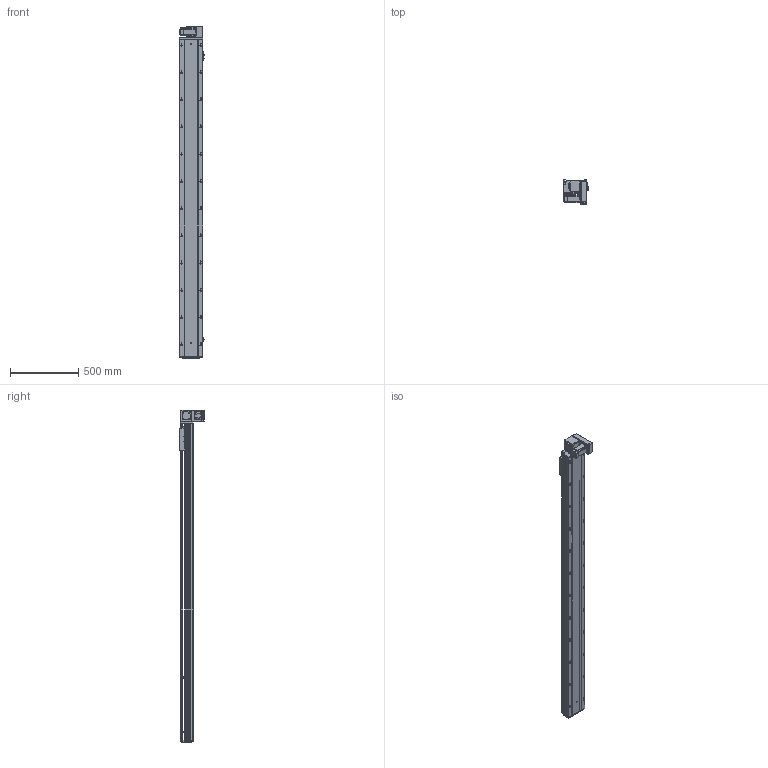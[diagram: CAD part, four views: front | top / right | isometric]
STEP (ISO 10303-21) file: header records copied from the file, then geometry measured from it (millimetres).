
FILE_DESCRIPTION (( 'STEP AP203' ), '1' );
FILE_NAME ('RY170-T-300-DR-P400W.SLDASM_2050.step', '2021-03-01T08:24:59', ( '盈信电脑' ), ( '东莞市道滘镇水果街19号' ), 'SwSTEP 2.0', 'SolidWorks 2012', '' );
FILE_SCHEMA (( 'CONFIG_CONTROL_DESIGN' ));
Length unit declared in the file: millimetre
Products named in the file (19): RY170-T-呴雄粣揤踡啣; 15; RY170-T-300-DR-P400W.SLDASM_2050; RY170-T肮祭謫裔啣; 滅袉蝶18-10; RY170-T蹟翐M4; RY170肮祭謫萇儂欶; RY170-T肮祭湍揤踡輸2; RY170-T肮祭湍揤踡輸1; RY120-T主同步轮轴承压盖; RY170肮祭謫ヶ裔啣; RY170外置感应片(200共用）; RY170翋肮祭謫釱; RY170同步轮电机安装板(400W); RY170綴裔啣; RY170-T-300肮祭謫倰第裔啣-DR_2050; 覜茼ん672; RY170-T-300肮祭謫倰第菁釱-DR_2050; RY170肮祭湍臏賑輸
Assembly tree (23 placements, depth 2):
  RY170-T-300-DR-P400W.SLDASM_2050
    RY170-T-300肮祭謫倰第菁釱-DR_2050
    RY170肮祭湍臏賑輸
    RY170-T-300肮祭謫倰第裔啣-DR_2050
    RY170綴裔啣
    覜茼ん672  x3
    RY170外置感应片(200共用）
    RY170肮祭謫ヶ裔啣
    RY170翋肮祭謫釱
    RY170同步轮电机安装板(400W)
    RY170肮祭謫萇儂欶
    RY170-T肮祭湍揤踡輸1  x2
    RY170-T肮祭湍揤踡輸2  x2
    RY120-T主同步轮轴承压盖
    RY170-T肮祭謫裔啣
    RY170-T蹟翐M4
    滅袉蝶18-10  x2
    RY170-T-呴雄粣揤踡啣
    15
Bounding box: 183.7 x 178 x 2438 mm (x, y, z)
Volume: 11295224.7 mm3; surface area: 3894532.5 mm2
Topology: 23 solids, 23 shells, 3030 faces, 8498 edges, 5417 vertices
Faces by surface type: cylinder 1418, plane 1274, cone 308, bspline 30
Entity records: 92421 total; most frequent: CARTESIAN_POINT 21430, ORIENTED_EDGE 14560, DIRECTION 14186, EDGE_CURVE 7280, AXIS2_PLACEMENT_3D 5043, VERTEX_POINT 4773, VECTOR 4100, LINE 4100
